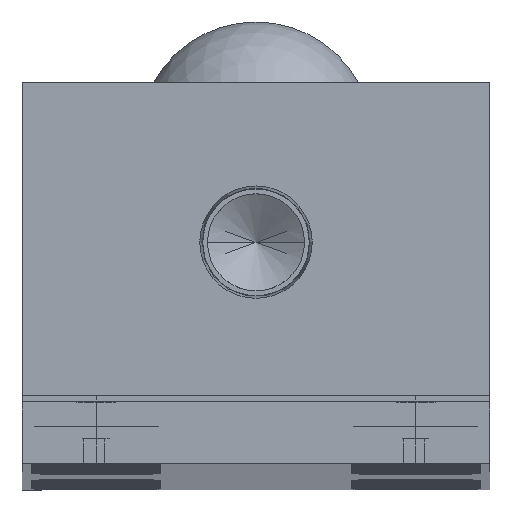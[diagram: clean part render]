
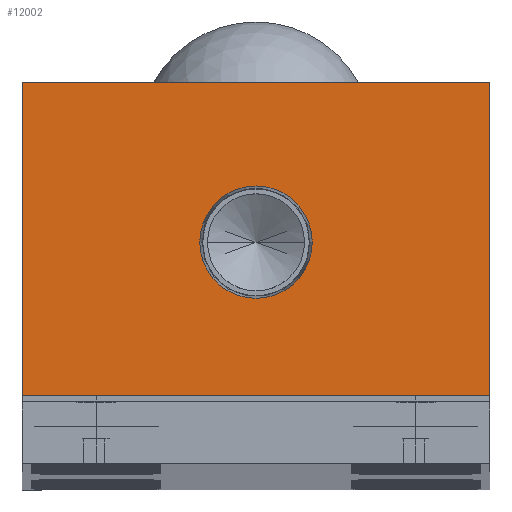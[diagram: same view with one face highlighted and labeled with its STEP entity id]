
A CAD part, top view. The second image highlights one B-rep face of the part: STEP entity #12002.
In plain terms, the highlighted planar face has unit normal (0, 0, 1).
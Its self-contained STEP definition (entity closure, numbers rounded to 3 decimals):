
#476 = LINE ( 'NONE', #20906, #11058 ) ;
#1060 = CARTESIAN_POINT ( 'NONE',  ( 4.574, 18., 0. ) ) ;
#1450 = ORIENTED_EDGE ( 'NONE', *, *, #5292, .F. ) ;
#1516 = EDGE_CURVE ( 'NONE', #5488, #23399, #476, .T. ) ;
#1682 = CARTESIAN_POINT ( 'NONE',  ( -4.574, 18., 0. ) ) ;
#1709 = CARTESIAN_POINT ( 'NONE',  ( 19., 5.5, 0. ) ) ;
#1769 = AXIS2_PLACEMENT_3D ( 'NONE', #5338, #20048, #7456 ) ;
#2192 = EDGE_CURVE ( 'NONE', #23399, #26463, #8710, .T. ) ;
#2764 = CARTESIAN_POINT ( 'NONE',  ( 19., 5.5, 0. ) ) ;
#3078 = VECTOR ( 'NONE', #25733, 1000. ) ;
#3568 = LINE ( 'NONE', #1709, #14116 ) ;
#4090 = DIRECTION ( 'NONE',  ( 0., 1., 0. ) ) ;
#4104 = ORIENTED_EDGE ( 'NONE', *, *, #1516, .T. ) ;
#4683 = CARTESIAN_POINT ( 'NONE',  ( 19., 31., 0. ) ) ;
#4880 = ORIENTED_EDGE ( 'NONE', *, *, #2192, .T. ) ;
#5292 = EDGE_CURVE ( 'NONE', #26953, #26297, #13160, .T. ) ;
#5338 = CARTESIAN_POINT ( 'NONE',  ( 0., 18., 0. ) ) ;
#5488 = VERTEX_POINT ( 'NONE', #2764 ) ;
#7456 = DIRECTION ( 'NONE',  ( 1., 0., 0. ) ) ;
#8346 = DIRECTION ( 'NONE',  ( 0., 0., 1. ) ) ;
#8403 = PLANE ( 'NONE',  #10203 ) ;
#8586 = LINE ( 'NONE', #23821, #24720 ) ;
#8710 = LINE ( 'NONE', #4683, #3078 ) ;
#10203 = AXIS2_PLACEMENT_3D ( 'NONE', #16787, #10528, #25234 ) ;
#10528 = DIRECTION ( 'NONE',  ( 0., 0., 1. ) ) ;
#11058 = VECTOR ( 'NONE', #4090, 1000. ) ;
#11764 = EDGE_LOOP ( 'NONE', ( #12053, #4104, #4880, #16977 ) ) ;
#12002 = ADVANCED_FACE ( 'NONE', ( #16178, #17488 ), #8403, .T. ) ;
#12053 = ORIENTED_EDGE ( 'NONE', *, *, #21353, .T. ) ;
#12114 = EDGE_CURVE ( 'NONE', #26463, #17839, #8586, .T. ) ;
#12187 = EDGE_LOOP ( 'NONE', ( #24068, #1450 ) ) ;
#13160 = CIRCLE ( 'NONE', #19533, 4.574 ) ;
#14116 = VECTOR ( 'NONE', #20687, 1000. ) ;
#15542 = EDGE_CURVE ( 'NONE', #26297, #26953, #25904, .T. ) ;
#16178 = FACE_BOUND ( 'NONE', #12187, .T. ) ;
#16787 = CARTESIAN_POINT ( 'NONE',  ( 0., 0., 0. ) ) ;
#16977 = ORIENTED_EDGE ( 'NONE', *, *, #12114, .T. ) ;
#17488 = FACE_OUTER_BOUND ( 'NONE', #11764, .T. ) ;
#17839 = VERTEX_POINT ( 'NONE', #20211 ) ;
#19533 = AXIS2_PLACEMENT_3D ( 'NONE', #20922, #8346, #23043 ) ;
#20048 = DIRECTION ( 'NONE',  ( 0., 0., 1. ) ) ;
#20211 = CARTESIAN_POINT ( 'NONE',  ( -19., 5.5, 0. ) ) ;
#20687 = DIRECTION ( 'NONE',  ( 1., 0., 0. ) ) ;
#20906 = CARTESIAN_POINT ( 'NONE',  ( 19., 5.5, 0. ) ) ;
#20922 = CARTESIAN_POINT ( 'NONE',  ( 0., 18., 0. ) ) ;
#21353 = EDGE_CURVE ( 'NONE', #17839, #5488, #3568, .T. ) ;
#23043 = DIRECTION ( 'NONE',  ( 1., 0., 0. ) ) ;
#23399 = VERTEX_POINT ( 'NONE', #24997 ) ;
#23821 = CARTESIAN_POINT ( 'NONE',  ( -19., 31., 0. ) ) ;
#24068 = ORIENTED_EDGE ( 'NONE', *, *, #15542, .F. ) ;
#24720 = VECTOR ( 'NONE', #25942, 1000. ) ;
#24997 = CARTESIAN_POINT ( 'NONE',  ( 19., 31., 0. ) ) ;
#25234 = DIRECTION ( 'NONE',  ( 1., 0., 0. ) ) ;
#25733 = DIRECTION ( 'NONE',  ( -1., 0., 0. ) ) ;
#25904 = CIRCLE ( 'NONE', #1769, 4.574 ) ;
#25942 = DIRECTION ( 'NONE',  ( 0., -1., 0. ) ) ;
#26297 = VERTEX_POINT ( 'NONE', #1060 ) ;
#26463 = VERTEX_POINT ( 'NONE', #27290 ) ;
#26953 = VERTEX_POINT ( 'NONE', #1682 ) ;
#27290 = CARTESIAN_POINT ( 'NONE',  ( -19., 31., 0. ) ) ;
